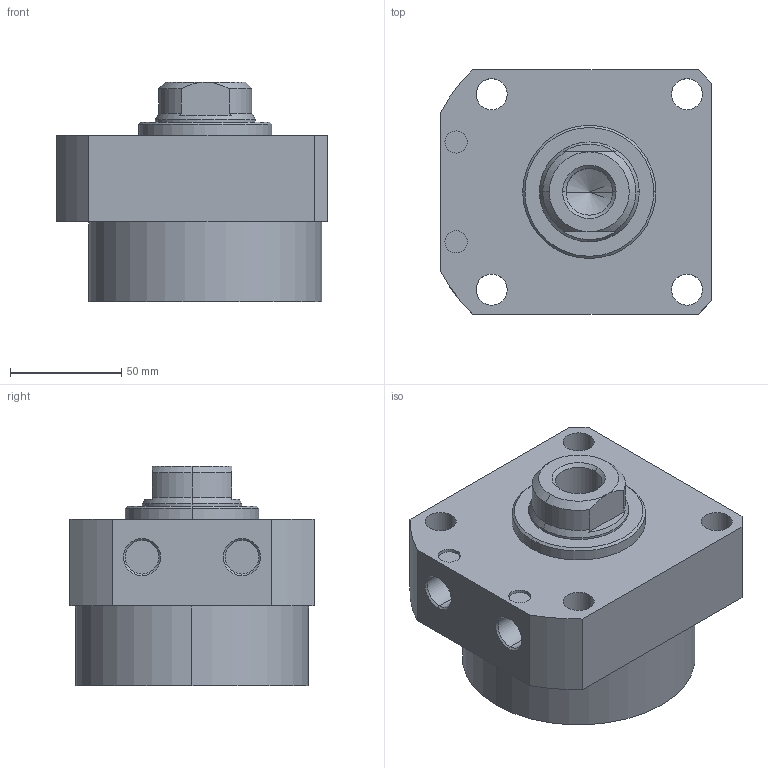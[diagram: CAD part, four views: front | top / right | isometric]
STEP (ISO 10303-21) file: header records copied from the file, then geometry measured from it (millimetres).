
FILE_DESCRIPTION (( 'STEP AP203' ), '1' );
FILE_NAME ('CLLR-105CA-(01-014).STEP', '2019-12-19T01:25:49', ( '' ), ( '' ), 'SwSTEP 2.0', 'SolidWorks 2015', '' );
FILE_SCHEMA (( 'CONFIG_CONTROL_DESIGN' ));
Length unit declared in the file: millimetre
Products named in the file (1): CLLR-105CA-(01-014)
Bounding box: 122 x 110 x 99 mm (x, y, z)
Volume: 813870.1 mm3; surface area: 69518.8 mm2
Topology: 1 solids, 1 shells, 63 faces, 146 edges, 91 vertices
Faces by surface type: cylinder 29, plane 19, cone 15
Entity records: 1923 total; most frequent: CARTESIAN_POINT 355, DIRECTION 336, ORIENTED_EDGE 288, EDGE_CURVE 144, AXIS2_PLACEMENT_3D 136, VERTEX_POINT 91, EDGE_LOOP 79, CIRCLE 72
